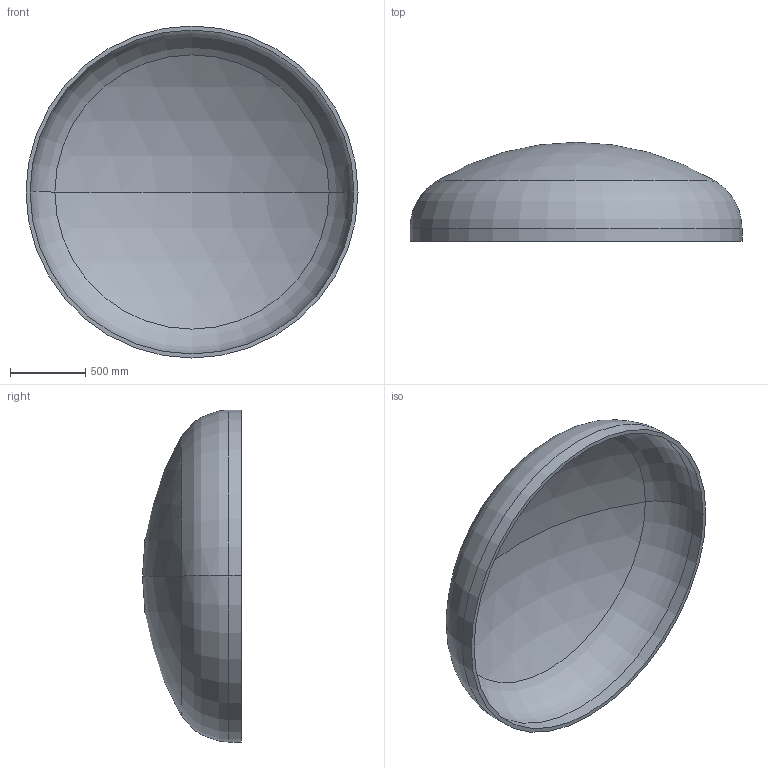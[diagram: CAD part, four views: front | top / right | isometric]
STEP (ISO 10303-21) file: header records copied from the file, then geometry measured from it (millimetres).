
FILE_DESCRIPTION (( 'STEP AP203' ), '1' );
FILE_NAME ('DIN 28013 Korbbogenform_-_Boden DIN 28013 - 2200 x 85 - I - s=27.step', '2016-07-01T14:28:18', ( '' ), ( '' ), 'SwSTEP 2.0', 'SolidWorks 2013', '' );
FILE_SCHEMA (( 'CONFIG_CONTROL_DESIGN' ));
Length unit declared in the file: millimetre
Products named in the file (1): DIN 28013 Korbbogenform_-_Boden DIN 28013 - 2200 x 85 - I - s=27
Bounding box: 2200 x 655.81 x 2200 mm (x, y, z)
Volume: 155626005.3 mm3; surface area: 11713695.4 mm2
Topology: 1 solids, 1 shells, 13 faces, 24 edges, 14 vertices
Faces by surface type: torus 4, cylinder 4, sphere 4, plane 1
Entity records: 407 total; most frequent: DIRECTION 72, CARTESIAN_POINT 52, ORIENTED_EDGE 48, AXIS2_PLACEMENT_3D 34, EDGE_CURVE 24, CIRCLE 20, EDGE_LOOP 14, VERTEX_POINT 14
